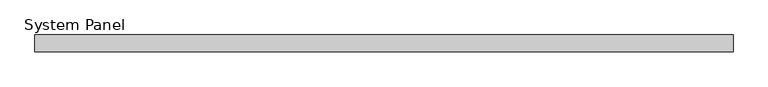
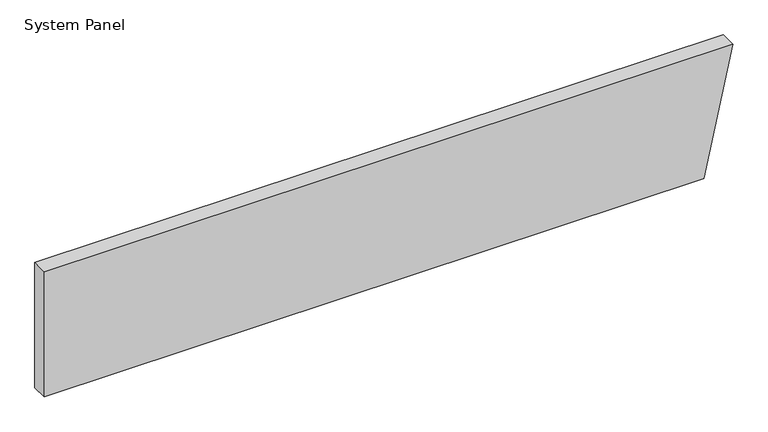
"""IFC4 building model written with IfcOpenShell, lengths in millimetres: plate geometry, System Panel : Equitilt_FlameGuard_150mm_Plain_Surfmist."""

from ifc_helpers import new_model, si_unit, frame, origin, place, context, project, spatial, polyline, outline, extrude, source, transform, mapped, element, save


def system_panel_eca249a8(model_context):
    return source(origin(), model_context, "Body", "SweptSolid", [
        extrude(outline(polyline([(0.0, -3125.4358309), (0.0, 2864.5641691), (1200.0, 3125.4358309), (1200.0, -3125.4358309), (0.0, -3125.4358309)])), frame((0.0, -150.0, 0.0), z_axis=(0.0, 1.0, 0.0), x_axis=(0.0, 0.0, 1.0)), (0.0, 0.0, 1.0), 150.0),
    ])


if __name__ == "__main__":
    model = new_model("IFC4")
    model_context = context("Model", 3, world=origin())
    ifc_project = project(units=[si_unit("LENGTHUNIT", "METRE", prefix="MILLI")], contexts=[model_context])
    site = spatial("IfcSite", under=ifc_project)
    building = spatial("IfcBuilding", under=site)
    placement = place(None, origin())
    system_panel_shape = system_panel_eca249a8(model_context)
    element("IfcPlate", 1, ObjectType="System Panel : Equitilt_FlameGuard_150mm_Plain_Surfmist", at=placement, inside=building, context=model_context, shape_type="MappedRepresentation", body=[
        mapped(system_panel_shape, transform((0.0, 0.0, 0.0), x_axis=(1.0, 0.0, 0.0), y_axis=(0.0, 1.0, 0.0), z_axis=(0.0, 0.0, 1.0))),
    ])
    save(model, "model.ifc")
